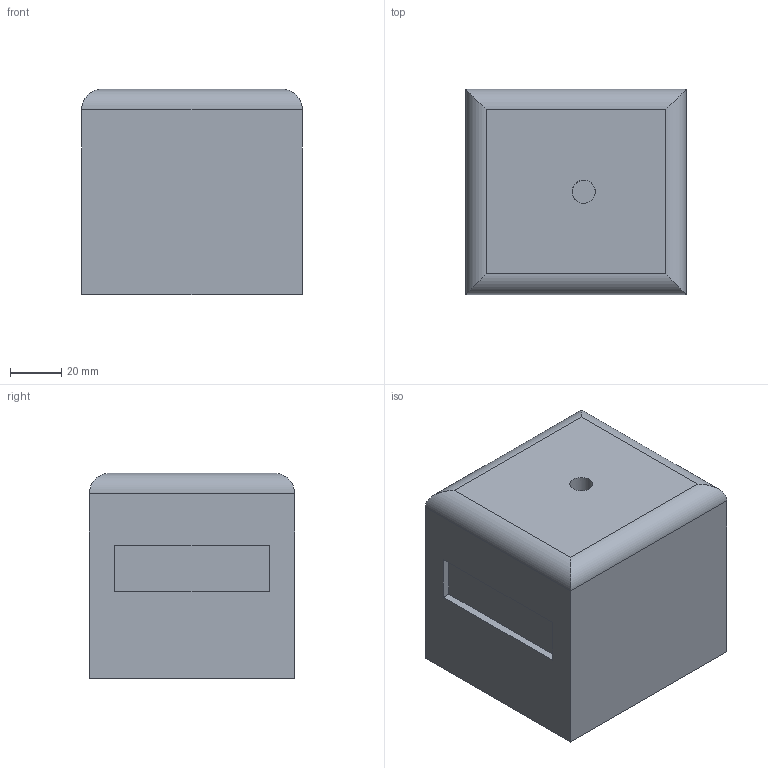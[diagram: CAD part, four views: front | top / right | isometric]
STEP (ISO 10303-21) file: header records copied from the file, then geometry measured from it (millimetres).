
FILE_DESCRIPTION(('FreeCAD Model'),'2;1');
FILE_NAME('Open CASCADE Shape Model','2026-11-08T23:31:28',('FreeCAD'),( 'FreeCAD'),'Open CASCADE STEP processor 7.8','FreeCAD','Unknown');
FILE_SCHEMA(('AUTOMOTIVE_DESIGN { 1 0 10303 214 1 1 1 1 }'));
Length unit declared in the file: millimetre
Products named in the file (1): Open CASCADE STEP translator 7.8 7
Bounding box: 86 x 80 x 80 mm (x, y, z)
Volume: 234181.5 mm3; surface area: 67166.3 mm2
Topology: 1 solids, 1 shells, 35 faces, 82 edges, 54 vertices
Faces by surface type: plane 26, cylinder 9
Full cylindrical faces by diameter (mm): 3.4 x2, 9 x1, 14.5 x1
Entity records: 1010 total; most frequent: DIRECTION 174, CARTESIAN_POINT 172, ORIENTED_EDGE 164, EDGE_CURVE 82, LINE 62, VECTOR 62, AXIS2_PLACEMENT_3D 56, VERTEX_POINT 54
